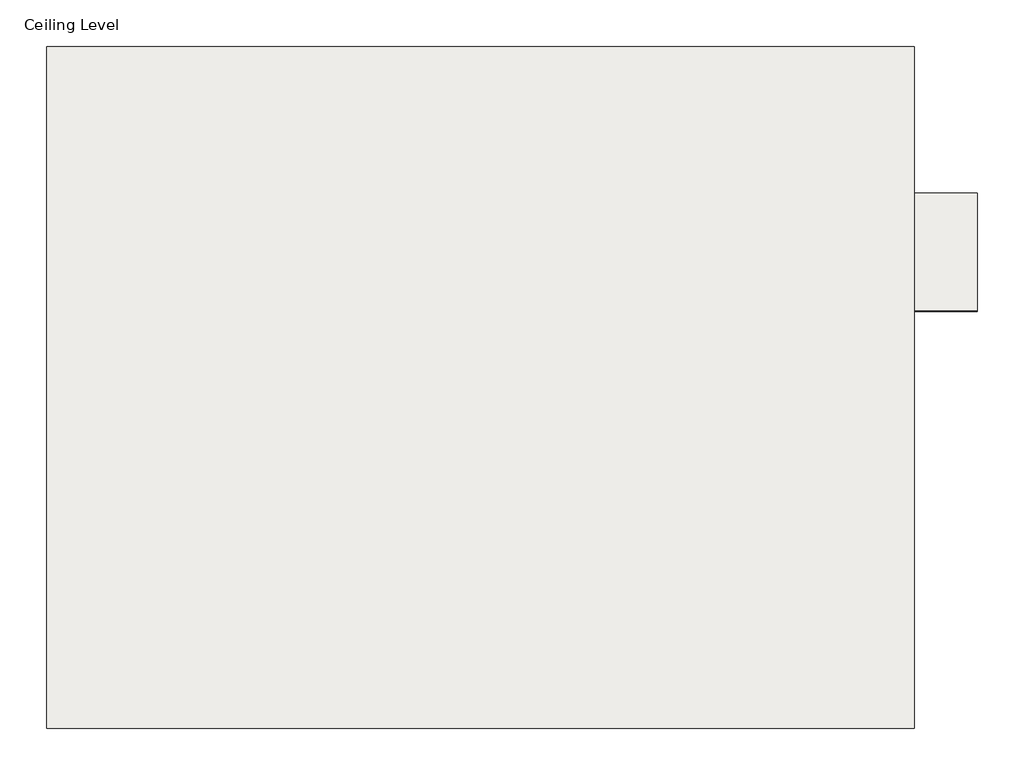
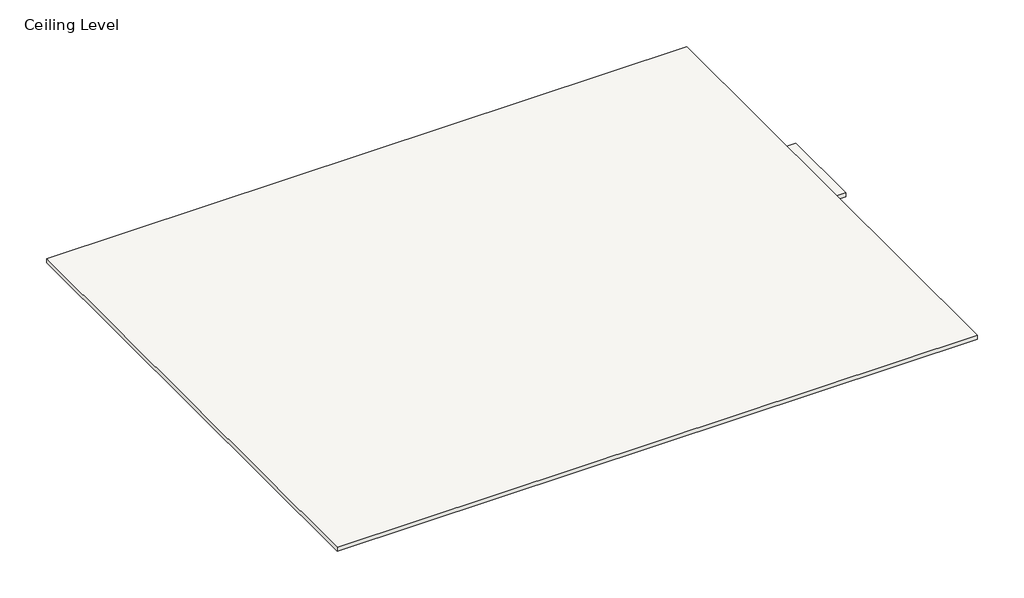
# One storey: 4 coverings.
"""IFC4 building model written with IfcOpenShell, lengths in millimetres."""

from ifc_helpers import new_model, si_unit, frame, origin, place, context, project, spatial, polyline, outline, extrude, element, save

model = new_model("IFC4")

# Units and contexts
model_context = context("Model", 3, world=origin())
ifc_project = project(units=[si_unit("LENGTHUNIT", "METRE", prefix="MILLI")], contexts=[model_context])

# Site, building, storey
site = spatial("IfcSite", under=ifc_project)
building = spatial("IfcBuilding", under=site)
storey = spatial("IfcBuildingStorey", under=building, Name="Ceiling Level", Elevation=0.0)

# Coverings
placement = place(None, origin())
element("IfcCovering", 1, ObjectType="Rockfon Sonar dB 35 E24 (white) 600 x 600 x 25 mm", at=placement, inside=storey, context=model_context, shape_type="SweptSolid", body=[
    extrude(outline(polyline([(-7000.9781072, 8795.7122432), (-7000.9781072, 5895.7122432), (-10690.9781072, 5895.7122432), (-10690.9781072, 8795.7122432), (-7000.9781072, 8795.7122432)])), frame((0.0, 0.0, 1.0), z_axis=(0.0, 0.0, 1.0), x_axis=(1.0, 0.0, 0.0)), (0.0, 0.0, 1.0), 25.0),
])
element("IfcCovering", 2, ObjectType="Rockfon Sonar dB 35 E24 (white) 600 x 600 x 25 mm", at=placement, inside=storey, context=model_context, shape_type="SweptSolid", body=[
    extrude(outline(polyline([(-6733.0033126, 8169.1422422), (-6733.0033126, 7669.1422422), (-7133.0033126, 7669.1422422), (-7133.0033126, 8169.1422422), (-6733.0033126, 8169.1422422)])), frame((0.0, 0.0, -631.2333848), z_axis=(0.0, 0.0, 1.0), x_axis=(1.0, 0.0, 0.0)), (0.0, 0.0, 1.0), 25.0),
])
element("IfcCovering", 3, ObjectType="Rockfon Sonar dB 35 E15 (white) 600 x 600 x 25 mm", at=placement, inside=storey, context=model_context, shape_type="SweptSolid", body=[
    extrude(outline(polyline([(-6733.0033126, 8172.014919), (-6733.0033126, 7672.014919), (-7133.0033126, 7672.014919), (-7133.0033126, 8172.014919), (-6733.0033126, 8172.014919)])), frame((0.0, 0.0, -459.9359891), z_axis=(0.0, 0.0, 1.0), x_axis=(1.0, 0.0, 0.0)), (0.0, 0.0, 1.0), 25.0),
])
element("IfcCovering", 4, ObjectType="Rockfon Sonar dB 35 A24 (white) 600 x 600 x 25 mm", at=placement, inside=storey, context=model_context, shape_type="SweptSolid", body=[
    extrude(outline(polyline([(-6733.0033126, 8171.9468098), (-6733.0033126, 7671.9468098), (-7133.0033126, 7671.9468098), (-7133.0033126, 8171.9468098), (-6733.0033126, 8171.9468098)])), frame((0.0, 0.0, -302.431728), z_axis=(0.0, 0.0, 1.0), x_axis=(1.0, 0.0, 0.0)), (0.0, 0.0, 1.0), 25.0),
])

save(model, "model.ifc")
